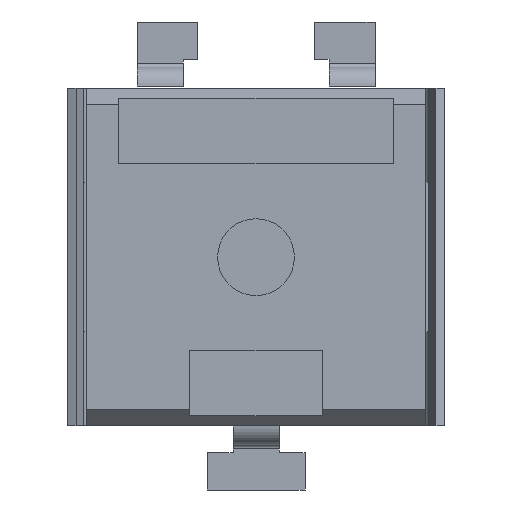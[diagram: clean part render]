
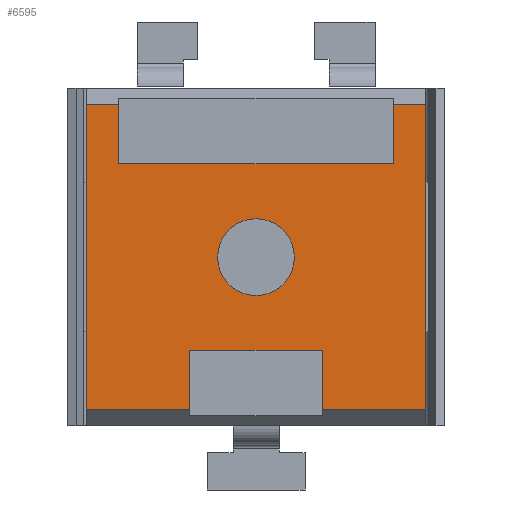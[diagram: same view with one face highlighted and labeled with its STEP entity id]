
A CAD part, front view. The second image highlights one B-rep face of the part: STEP entity #6595.
In plain terms, the highlighted planar face has unit normal (0, -1, 0).
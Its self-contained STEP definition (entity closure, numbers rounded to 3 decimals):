
#274=CIRCLE('',#6811,0.508);
#1253=ORIENTED_EDGE('',*,*,#2018,.F.);
#1254=ORIENTED_EDGE('',*,*,#2328,.T.);
#1255=ORIENTED_EDGE('',*,*,#2327,.F.);
#1256=ORIENTED_EDGE('',*,*,#2323,.F.);
#1257=ORIENTED_EDGE('',*,*,#2331,.T.);
#1258=ORIENTED_EDGE('',*,*,#1926,.F.);
#1259=ORIENTED_EDGE('',*,*,#1912,.F.);
#1260=ORIENTED_EDGE('',*,*,#2026,.T.);
#1261=ORIENTED_EDGE('',*,*,#2025,.F.);
#1262=ORIENTED_EDGE('',*,*,#2022,.F.);
#1263=ORIENTED_EDGE('',*,*,#1908,.F.);
#1264=ORIENTED_EDGE('',*,*,#1894,.F.);
#1265=ORIENTED_EDGE('',*,*,#2332,.T.);
#1894=EDGE_CURVE('',#2630,#2631,#3114,.T.);
#1908=EDGE_CURVE('',#2631,#2643,#3128,.T.);
#1912=EDGE_CURVE('',#2646,#2647,#3132,.T.);
#1926=EDGE_CURVE('',#2647,#2659,#3146,.T.);
#2018=EDGE_CURVE('',#2750,#2750,#274,.T.);
#2022=EDGE_CURVE('',#2643,#2753,#3153,.T.);
#2025=EDGE_CURVE('',#2753,#2754,#3156,.T.);
#2026=EDGE_CURVE('',#2646,#2754,#3157,.T.);
#2323=EDGE_CURVE('',#2924,#2925,#3384,.T.);
#2327=EDGE_CURVE('',#2925,#2926,#3388,.T.);
#2328=EDGE_CURVE('',#2927,#2926,#3389,.T.);
#2331=EDGE_CURVE('',#2924,#2659,#3392,.T.);
#2332=EDGE_CURVE('',#2630,#2927,#3393,.T.);
#2630=VERTEX_POINT('',#8614);
#2631=VERTEX_POINT('',#8616);
#2643=VERTEX_POINT('',#8643);
#2646=VERTEX_POINT('',#8649);
#2647=VERTEX_POINT('',#8651);
#2659=VERTEX_POINT('',#8678);
#2750=VERTEX_POINT('',#9142);
#2753=VERTEX_POINT('',#9151);
#2754=VERTEX_POINT('',#9155);
#2924=VERTEX_POINT('',#9821);
#2925=VERTEX_POINT('',#9822);
#2926=VERTEX_POINT('',#9827);
#2927=VERTEX_POINT('',#9831);
#3114=LINE('',#8615,#3592);
#3128=LINE('',#8642,#3606);
#3132=LINE('',#8650,#3610);
#3146=LINE('',#8677,#3624);
#3153=LINE('',#9150,#3631);
#3156=LINE('',#9156,#3634);
#3157=LINE('',#9158,#3635);
#3384=LINE('',#9820,#3862);
#3388=LINE('',#9828,#3866);
#3389=LINE('',#9830,#3867);
#3392=LINE('',#9835,#3870);
#3393=LINE('',#9836,#3871);
#3592=VECTOR('',#7247,1000.);
#3606=VECTOR('',#7263,1000.);
#3610=VECTOR('',#7267,1000.);
#3624=VECTOR('',#7283,1000.);
#3631=VECTOR('',#7408,1000.);
#3634=VECTOR('',#7413,1000.);
#3635=VECTOR('',#7416,1000.);
#3862=VECTOR('',#8019,1000.);
#3866=VECTOR('',#8025,1000.);
#3867=VECTOR('',#8028,1000.);
#3870=VECTOR('',#8033,1000.);
#3871=VECTOR('',#8034,1000.);
#4203=EDGE_LOOP('',(#1253));
#4204=EDGE_LOOP('',(#1254,#1255,#1256,#1257,#1258,#1259,#1260,#1261,#1262,
#1263,#1264,#1265));
#4503=FACE_BOUND('',#4203,.T.);
#4504=FACE_BOUND('',#4204,.T.);
#4731=PLANE('',#7007);
#6595=ADVANCED_FACE('',(#4503,#4504),#4731,.F.);
#6811=AXIS2_PLACEMENT_3D('',#9141,#7399,#7400);
#7007=AXIS2_PLACEMENT_3D('',#9837,#8035,#8036);
#7247=DIRECTION('',(0.,0.,1.));
#7263=DIRECTION('',(1.,0.,0.));
#7267=DIRECTION('',(1.,0.,0.));
#7283=DIRECTION('',(0.,0.,-1.));
#7399=DIRECTION('',(0.,-1.,0.));
#7400=DIRECTION('',(1.,0.,0.));
#7408=DIRECTION('',(0.,0.,-1.));
#7413=DIRECTION('',(1.,0.,0.));
#7416=DIRECTION('',(0.,0.,-1.));
#8019=DIRECTION('',(0.,0.,1.));
#8025=DIRECTION('',(-1.,0.,0.));
#8028=DIRECTION('',(0.,0.,1.));
#8033=DIRECTION('',(1.,0.,0.));
#8034=DIRECTION('',(1.,0.,0.));
#8035=DIRECTION('',(0.,1.,0.));
#8036=DIRECTION('',(1.,0.,0.));
#8614=CARTESIAN_POINT('',(-2.248,0.,-2.021));
#8615=CARTESIAN_POINT('',(-2.248,0.,-2.021));
#8616=CARTESIAN_POINT('',(-2.248,0.,2.021));
#8642=CARTESIAN_POINT('',(-2.248,0.,2.021));
#8643=CARTESIAN_POINT('',(-1.816,0.,2.021));
#8649=CARTESIAN_POINT('',(1.816,0.,2.021));
#8650=CARTESIAN_POINT('',(1.816,0.,2.021));
#8651=CARTESIAN_POINT('',(2.248,0.,2.021));
#8677=CARTESIAN_POINT('',(2.248,0.,2.021));
#8678=CARTESIAN_POINT('',(2.248,0.,-2.021));
#9141=CARTESIAN_POINT('',(0.,0.,0.));
#9142=CARTESIAN_POINT('',(0.508,0.,0.));
#9150=CARTESIAN_POINT('',(-1.816,0.,2.021));
#9151=CARTESIAN_POINT('',(-1.816,0.,1.234));
#9155=CARTESIAN_POINT('',(1.816,0.,1.234));
#9156=CARTESIAN_POINT('',(-1.816,0.,1.234));
#9158=CARTESIAN_POINT('',(1.816,0.,2.021));
#9820=CARTESIAN_POINT('',(0.876,0.,-2.021));
#9821=CARTESIAN_POINT('',(0.876,0.,-2.021));
#9822=CARTESIAN_POINT('',(0.876,0.,-1.234));
#9827=CARTESIAN_POINT('',(-0.876,0.,-1.234));
#9828=CARTESIAN_POINT('',(0.876,0.,-1.234));
#9830=CARTESIAN_POINT('',(-0.876,0.,-2.021));
#9831=CARTESIAN_POINT('',(-0.876,0.,-2.021));
#9835=CARTESIAN_POINT('',(0.876,0.,-2.021));
#9836=CARTESIAN_POINT('',(-2.248,0.,-2.021));
#9837=CARTESIAN_POINT('',(0.,0.,0.));
